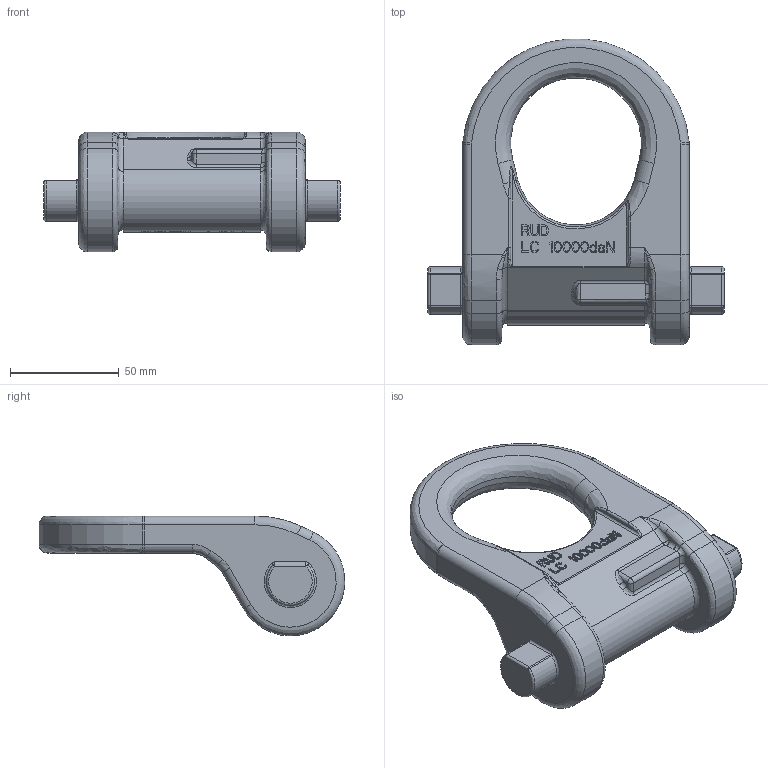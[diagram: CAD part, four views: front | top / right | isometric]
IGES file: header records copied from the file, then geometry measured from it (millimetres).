
Start section:  PTC IGES file: OPTILASH-FIX_10000daN_7910127_M35654-P-3.igs
Global section: file name: OPTILASH-FIX_10000daN_7910127_M35654-P-3.igs; native system: Pro/ENGINEER by Parametric Technology Corporation; preprocessor: 2011490; author: Andreas.Wendler; organization: Unknown; date: 20190404.124408; units: millimetre
Bounding box: 136 x 140.26 x 54.99 mm (x, y, z)
Volume: 264855.4 mm3; surface area: 46586.7 mm2
Topology: 1 solids, 2 shells, 774 faces, 2114 edges, 1382 vertices
Faces by surface type: bspline 653, revolution 121
